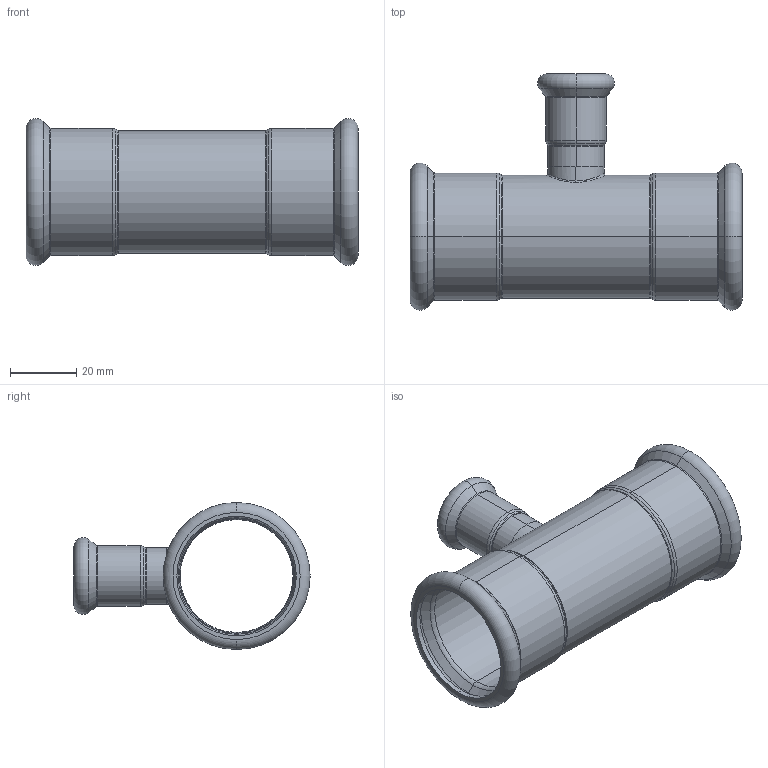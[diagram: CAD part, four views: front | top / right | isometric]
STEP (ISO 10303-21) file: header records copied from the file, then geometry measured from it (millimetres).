
FILE_DESCRIPTION (( 'STEP AP203' ), '1' );
FILE_NAME ('GDA5197.STEP', '2019-01-12T05:43:20', ( '' ), ( '' ), 'SwSTEP 2.0', 'SolidWorks 2015', '' );
FILE_SCHEMA (( 'CONFIG_CONTROL_DESIGN' ));
Length unit declared in the file: millimetre
Products named in the file (3): GDA5197; T-ｉ-01-15; T(R)-¢ñ-35¡Á15''
Assembly tree (2 placements, depth 2):
  GDA5197
    T(R)-¢ñ-35¡Á15''
    T-ｉ-01-15
Bounding box: 100 x 71.15 x 44.29 mm (x, y, z)
Volume: 20826.7 mm3; surface area: 28338.6 mm2
Topology: 2 solids, 2 shells, 114 faces, 234 edges, 128 vertices
Faces by surface type: torus 48, cylinder 30, cone 24, plane 8, bspline 4
Entity records: 4206 total; most frequent: CARTESIAN_POINT 1416, DIRECTION 620, ORIENTED_EDGE 468, AXIS2_PLACEMENT_3D 283, EDGE_CURVE 234, CIRCLE 168, VERTEX_POINT 128, EDGE_LOOP 124
